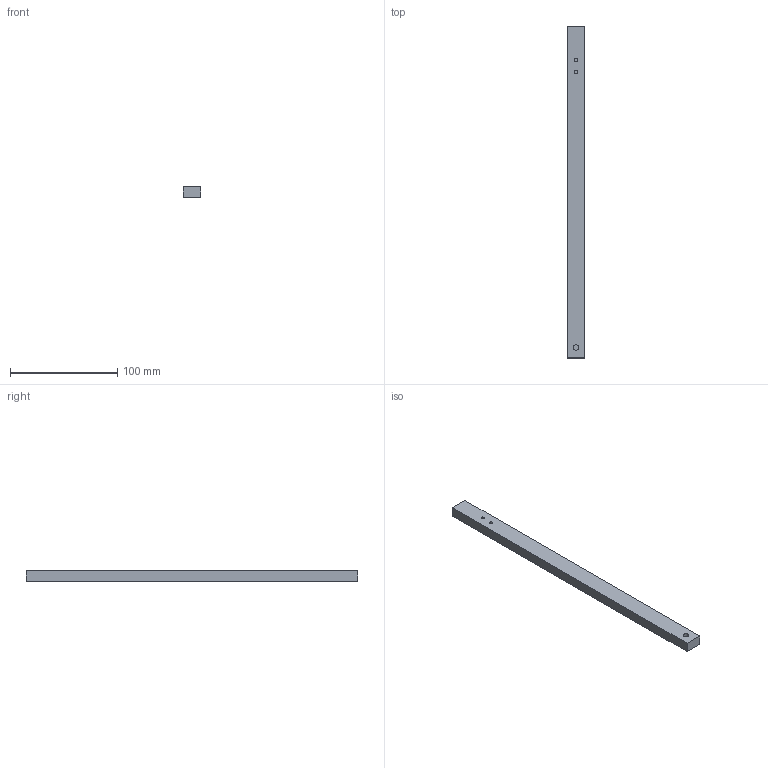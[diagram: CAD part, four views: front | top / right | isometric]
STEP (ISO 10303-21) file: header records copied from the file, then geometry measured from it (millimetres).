
FILE_DESCRIPTION(/* description */ ('STEP AP242','CAx-IF Rec.Pracs.---Representation and Presentation of Product Manufacturing Information (PMI)---4.0---2014-10-13','CAx-IF Rec.Pracs.---3D Tessellated Geometry---0.4---2014-09-14','2;1'),/* implementation_level */ '2;1');
FILE_NAME(/* name */ '67647dfee55b8a4a1098ada4',/* time_stamp */ '2024-12-19T20:11:43Z',/* author */ (''),/* organization */ (''),/* preprocessor_version */ 'ST-DEVELOPER v20',/* originating_system */ 'ONSHAPE BY PTC INC, 1.191',/* authorisation */ ' ');
FILE_SCHEMA (('AP242_MANAGED_MODEL_BASED_3D_ENGINEERING_MIM_LF { 1 0 10303 442 1 1 4 }'));
Length unit declared in the file: metre
Products named in the file (1): Part 1
Bounding box: 16.67 x 309.56 x 9.53 mm (x, y, z)
Volume: 49032.5 mm3; surface area: 16649.5 mm2
Topology: 1 solids, 1 shells, 12 faces, 21 edges, 14 vertices
Faces by surface type: plane 9, cylinder 3
Full cylindrical faces by diameter (mm): 3.175 x2, 5.159 x1
Entity records: 298 total; most frequent: DIRECTION 50, CARTESIAN_POINT 45, ORIENTED_EDGE 36, AXIS2_PLACEMENT_3D 19, EDGE_CURVE 18, EDGE_LOOP 18, FACE_BOUND 18, VERTEX_POINT 14
